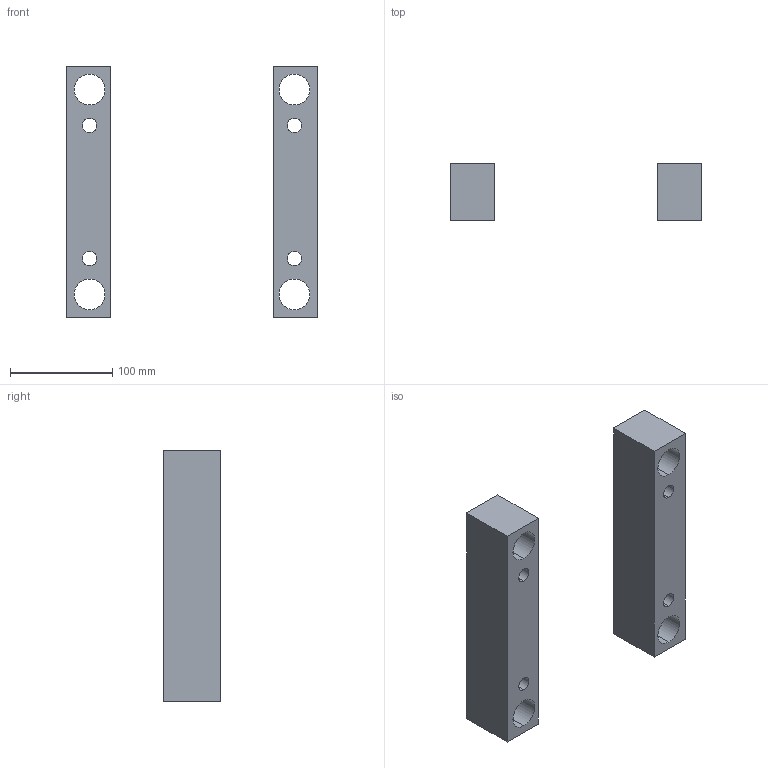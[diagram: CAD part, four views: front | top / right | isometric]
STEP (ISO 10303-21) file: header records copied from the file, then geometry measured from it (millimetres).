
FILE_DESCRIPTION (( 'STEP AP214' ), '1' );
FILE_NAME ('L50_246x246x56.STEP', '2018-10-05T18:57:55', ( '' ), ( '' ), 'SwSTEP 2.0', 'SolidWorks 2014', '' );
FILE_SCHEMA (( 'AUTOMOTIVE_DESIGN' ));
Length unit declared in the file: millimetre
Products named in the file (1): L50_246x246x56
Bounding box: 246 x 56 x 246 mm (x, y, z)
Volume: 991917.6 mm3; surface area: 131125.2 mm2
Topology: 2 solids, 2 shells, 28 faces, 72 edges, 48 vertices
Faces by surface type: cylinder 16, plane 12
Entity records: 943 total; most frequent: DIRECTION 162, CARTESIAN_POINT 149, ORIENTED_EDGE 144, EDGE_CURVE 72, AXIS2_PLACEMENT_3D 61, VERTEX_POINT 48, EDGE_LOOP 44, LINE 40
